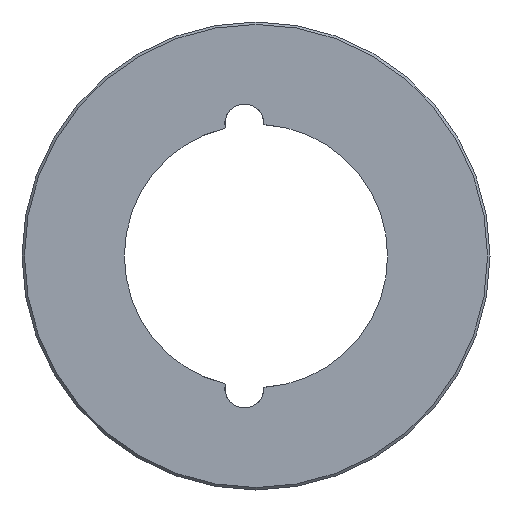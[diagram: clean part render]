
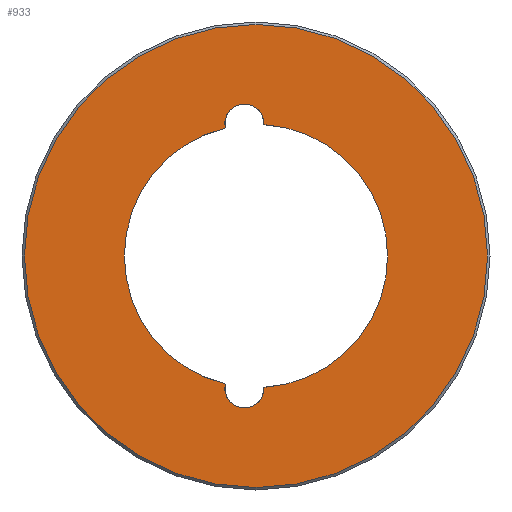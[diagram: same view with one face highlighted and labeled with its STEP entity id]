
A CAD part, left-side view. The second image highlights one B-rep face of the part: STEP entity #933.
In plain terms, the highlighted planar face has unit normal (-1, 0, 0).
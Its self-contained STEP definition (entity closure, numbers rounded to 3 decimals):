
#115=FACE_BOUND('',#352,.T.);
#125=PLANE('',#1093);
#204=FACE_OUTER_BOUND('',#351,.T.);
#351=EDGE_LOOP('',(#799));
#352=EDGE_LOOP('',(#800,#801,#802,#803));
#373=CIRCLE('',#951,26.717);
#375=CIRCLE('',#954,3.969);
#377=CIRCLE('',#957,3.969);
#446=CIRCLE('',#1092,47.);
#447=CIRCLE('',#1094,26.717);
#467=VERTEX_POINT('',#1491);
#468=VERTEX_POINT('',#1498);
#470=VERTEX_POINT('',#1509);
#472=VERTEX_POINT('',#1520);
#540=VERTEX_POINT('',#1729);
#555=EDGE_CURVE('',#467,#468,#373,.T.);
#558=EDGE_CURVE('',#470,#468,#375,.T.);
#562=EDGE_CURVE('',#467,#472,#377,.T.);
#631=EDGE_CURVE('',#540,#540,#446,.T.);
#632=EDGE_CURVE('',#470,#472,#447,.T.);
#799=ORIENTED_EDGE('',*,*,#631,.T.);
#800=ORIENTED_EDGE('',*,*,#562,.T.);
#801=ORIENTED_EDGE('',*,*,#632,.F.);
#802=ORIENTED_EDGE('',*,*,#558,.T.);
#803=ORIENTED_EDGE('',*,*,#555,.F.);
#933=ADVANCED_FACE('',(#204,#115),#125,.T.);
#951=AXIS2_PLACEMENT_3D('',#1499,#1125,#1126);
#954=AXIS2_PLACEMENT_3D('',#1510,#1131,#1132);
#957=AXIS2_PLACEMENT_3D('',#1528,#1137,#1138);
#1092=AXIS2_PLACEMENT_3D('',#1730,#1407,#1408);
#1093=AXIS2_PLACEMENT_3D('',#1731,#1409,#1410);
#1094=AXIS2_PLACEMENT_3D('',#1732,#1411,#1412);
#1125=DIRECTION('center_axis',(-1.,0.,0.));
#1126=DIRECTION('ref_axis',(0.,0.,1.));
#1131=DIRECTION('center_axis',(1.,0.,0.));
#1132=DIRECTION('ref_axis',(0.,0.974,-0.227));
#1137=DIRECTION('center_axis',(1.,0.,0.));
#1138=DIRECTION('ref_axis',(0.,-0.999,0.055));
#1407=DIRECTION('center_axis',(-1.,0.,0.));
#1408=DIRECTION('ref_axis',(0.,0.,1.));
#1409=DIRECTION('center_axis',(-1.,0.,0.));
#1410=DIRECTION('ref_axis',(0.,0.,1.));
#1411=DIRECTION('center_axis',(-1.,0.,0.));
#1412=DIRECTION('ref_axis',(0.,0.,1.));
#1491=CARTESIAN_POINT('',(-52.007,-1.611,25.718));
#1498=CARTESIAN_POINT('',(-52.007,-1.611,79.055));
#1499=CARTESIAN_POINT('Origin',(-52.007,0.,52.387));
#1509=CARTESIAN_POINT('',(-52.007,6.217,78.37));
#1510=CARTESIAN_POINT('Origin',(-52.007,2.352,79.271));
#1520=CARTESIAN_POINT('',(-52.007,6.217,26.403));
#1528=CARTESIAN_POINT('Origin',(-52.007,2.352,25.502));
#1729=CARTESIAN_POINT('',(-52.007,0.,99.387));
#1730=CARTESIAN_POINT('Origin',(-52.007,0.,52.387));
#1731=CARTESIAN_POINT('Origin',(-52.007,0.,79.104));
#1732=CARTESIAN_POINT('Origin',(-52.007,0.,52.387));
